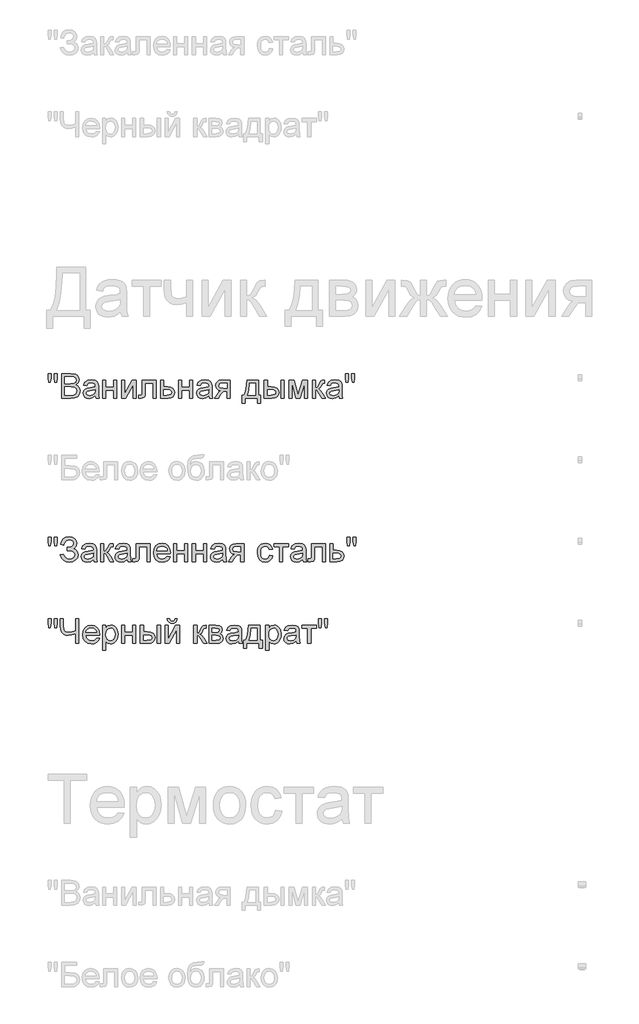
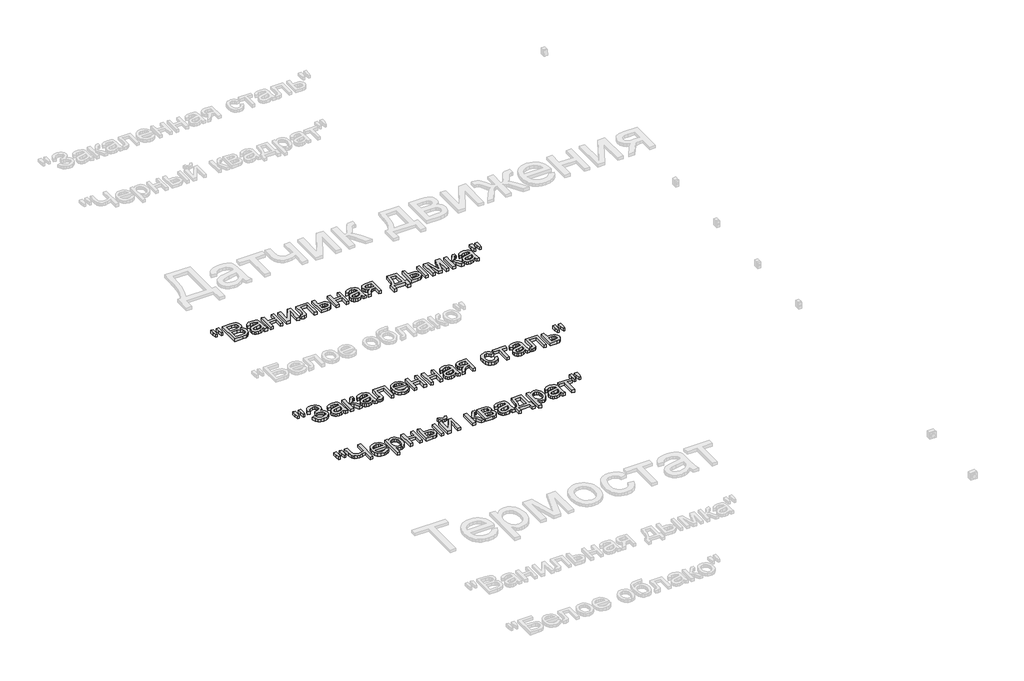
# One storey, part 13 of 168: 3 proxies.
"""IFC4 building model written with IfcOpenShell, lengths in millimetres."""

from ifc_helpers import new_model, si_unit, origin, origin_with_axes, place, context, project, spatial, polyline, outline, extrude, element, save

model = new_model("IFC4")

# Units and contexts
model_context = context("Model", 3, world=origin())
ifc_project = project(units=[si_unit("LENGTHUNIT", "METRE", prefix="MILLI")], contexts=[model_context])

# Site, building, storey
site = spatial("IfcSite", under=ifc_project)
building = spatial("IfcBuilding", under=site)
storey = spatial("IfcBuildingStorey", under=building, Name="Этаж 01", Elevation=0.0)

# Proxies
placement = place(None, origin())
element("IfcBuildingElementProxy", 1, Name="150", ObjectType="150", at=placement, inside=storey, context=model_context, shape_type="SweptSolid", body=[
    extrude(outline(polyline([(32880.1485789, -50469.2611657), (32875.550054, -50440.1616998), (32875.550054, -50415.108936), (32894.3856121, -50415.108936), (32894.3856121, -50440.1616998), (32890.2653338, -50469.2611657), (32880.1485789, -50469.2611657)])), origin_with_axes(), (0.0, 0.0, 1.0), 20.0),
    extrude(outline(polyline([(32917.7093306, -50469.2611657), (32913.2211703, -50440.1616998), (32913.2211703, -50415.108936), (32932.0567284, -50415.108936), (32932.0567284, -50440.1616998), (32927.6421445, -50469.2611657), (32917.7093306, -50469.2611657)])), origin_with_axes(), (0.0, 0.0, 1.0), 20.0),
    extrude(outline(polyline([(32957.9556209, -50565.7934012), (32957.9556209, -50415.108936), (33015.4555767, -50415.108936), (33043.6169435, -50419.541914), (33053.0807078, -50425.16591), (33060.2452096, -50433.1719419), (33066.2600803, -50452.4489585), (33061.2017028, -50470.0521119), (33045.9162059, -50483.3878343), (33056.5893823, -50488.9612465), (33064.4758526, -50497.4409265), (33069.3456905, -50508.2658542), (33070.9689698, -50520.8750096), (33066.5359918, -50541.1269134), (33055.5547142, -50555.5478876), (33039.1655713, -50563.1998331), (33015.0141183, -50565.7934012), (32957.9556209, -50565.7934012)]), holes=[polyline([(32976.791179, -50476.3245), (33011.1881456, -50476.3245), (33031.2745025, -50474.7058192), (33043.3594261, -50467.7344554), (33047.4245221, -50455.4655908), (33043.6353376, -50443.1783322), (33032.7828187, -50435.9126628), (33008.5761834, -50433.9444941), (32976.791179, -50433.9444941), (32976.791179, -50476.3245)]), polyline([(32976.791179, -50546.957843), (33015.4187885, -50546.957843), (33029.3983043, -50546.222079), (33041.2257105, -50542.1201948), (33049.061597, -50533.7508794), (33052.1334117, -50521.0589506), (33048.5281681, -50506.4172472), (33036.8479148, -50497.6800498), (33013.5793786, -50495.1600581), (32976.791179, -50495.1600581), (32976.791179, -50546.957843)])]), origin_with_axes(), (0.0, 0.0, 1.0), 20.0),
    extrude(outline(polyline([(33165.1467606, -50551.6667326), (33146.8814195, -50564.4322378), (33126.7030921, -50568.147846), (33110.9623412, -50565.9129628), (33099.3510657, -50559.2083135), (33092.1911624, -50549.0271793), (33089.804528, -50536.3628416), (33093.4097715, -50521.4636208), (33102.8827329, -50510.6478901), (33116.0713024, -50504.4674726), (33132.3684748, -50501.6347812), (33165.036396, -50495.1600581), (33165.1467606, -50490.9662034), (33163.8499765, -50482.5600998), (33159.9596244, -50477.060264), (33151.2592153, -50472.9767738), (33139.1375035, -50471.6156104), (33120.0812162, -50475.2392481), (33110.9945309, -50488.0967238), (33092.1589727, -50485.742279), (33100.3075589, -50467.3481793), (33116.7150959, -50456.5692368), (33141.5655247, -50452.7800523), (33164.3926025, -50456.1277784), (33177.2868664, -50464.533882), (33183.0626137, -50477.3177814), (33183.9823187, -50493.7988947), (33183.9823187, -50517.2329778), (33184.9388119, -50549.9560813), (33188.6912083, -50565.7934012), (33169.8556501, -50565.7934012), (33165.1467606, -50551.6667326)]), holes=[polyline([(33165.1467606, -50513.9956163), (33134.7597078, -50519.7713636), (33118.5545059, -50522.8247842), (33111.2152601, -50527.7911911), (33108.6400861, -50535.0384664), (33114.2502865, -50545.2287977), (33130.7130058, -50549.3122878), (33149.7692932, -50544.8057334), (33162.0565518, -50533.8980322), (33165.036396, -50519.3299052), (33165.1467606, -50513.9956163)])]), origin_with_axes(), (0.0, 0.0, 1.0), 20.0),
    extrude(outline(polyline([(33209.8812112, -50455.134497), (33228.7167693, -50455.134497), (33228.7167693, -50497.5145029), (33278.1601095, -50497.5145029), (33278.1601095, -50455.134497), (33296.9956676, -50455.134497), (33296.9956676, -50565.7934012), (33278.1601095, -50565.7934012), (33278.1601095, -50516.350061), (33228.7167693, -50516.350061), (33228.7167693, -50565.7934012), (33209.8812112, -50565.7934012), (33209.8812112, -50455.134497)])), origin_with_axes(), (0.0, 0.0, 1.0), 20.0),
    extrude(outline(polyline([(33325.2490049, -50455.134497), (33344.084563, -50455.134497), (33344.084563, -50539.5266267), (33390.364118, -50455.134497), (33414.7179061, -50455.134497), (33414.7179061, -50565.7934012), (33395.8823479, -50565.7934012), (33395.8823479, -50481.9163063), (33349.8970985, -50565.7934012), (33325.2490049, -50565.7934012), (33325.2490049, -50455.134497)])), origin_with_axes(), (0.0, 0.0, 1.0), 20.0),
    extrude(outline(polyline([(33452.3890224, -50455.134497), (33537.1490341, -50455.134497), (33537.1490341, -50565.6830366), (33518.3134759, -50565.6830366), (33518.3134759, -50473.9700552), (33471.2245806, -50473.9700552), (33471.2245806, -50526.7611215), (33469.9553877, -50551.1149096), (33462.9840239, -50561.3972113), (33446.5029105, -50565.7934012), (33431.1990195, -50564.836908), (33431.1990195, -50546.957843), (33439.6235172, -50546.957843), (33448.1399854, -50545.7990148), (33451.5428938, -50542.1201948), (33452.3890224, -50525.6942637), (33452.3890224, -50455.134497)])), origin_with_axes(), (0.0, 0.0, 1.0), 20.0),
    extrude(outline(polyline([(33565.4023713, -50455.134497), (33584.2379295, -50455.134497), (33584.2379295, -50495.1600581), (33605.9429672, -50495.1600581), (33624.7601312, -50497.5191014), (33638.6844648, -50504.5962313), (33647.2929034, -50515.8212307), (33650.162383, -50530.6238825), (33647.7205663, -50544.102159), (33640.395116, -50555.4743112), (33627.6985887, -50563.2136287), (33609.1435405, -50565.7934012), (33565.4023713, -50565.7934012), (33565.4023713, -50455.134497)]), holes=[polyline([(33584.2379295, -50546.957843), (33601.8226888, -50546.957843), (33624.539402, -50543.0031116), (33629.6299692, -50537.9401356), (33631.3268249, -50530.6606707), (33626.3052356, -50519.0723878), (33618.2348244, -50515.2648092), (33604.066769, -50513.9956163), (33584.2379295, -50513.9956163), (33584.2379295, -50546.957843)])]), origin_with_axes(), (0.0, 0.0, 1.0), 20.0),
    extrude(outline(polyline([(33673.7068307, -50455.134497), (33692.5423889, -50455.134497), (33692.5423889, -50497.5145029), (33741.985729, -50497.5145029), (33741.985729, -50455.134497), (33760.8212872, -50455.134497), (33760.8212872, -50565.7934012), (33741.985729, -50565.7934012), (33741.985729, -50516.350061), (33692.5423889, -50516.350061), (33692.5423889, -50565.7934012), (33673.7068307, -50565.7934012), (33673.7068307, -50455.134497)])), origin_with_axes(), (0.0, 0.0, 1.0), 20.0),
    extrude(outline(polyline([(33859.7079675, -50551.6667326), (33841.4426264, -50564.4322378), (33821.264299, -50568.147846), (33805.5235481, -50565.9129628), (33793.9122726, -50559.2083135), (33786.7523693, -50549.0271793), (33784.3657349, -50536.3628416), (33787.9709784, -50521.4636208), (33797.4439398, -50510.6478901), (33810.6325093, -50504.4674726), (33826.9296817, -50501.6347812), (33859.5976029, -50495.1600581), (33859.7079675, -50490.9662034), (33858.4111834, -50482.5600998), (33854.5208313, -50477.060264), (33845.8204221, -50472.9767738), (33833.6987104, -50471.6156104), (33814.6424231, -50475.2392481), (33805.5557378, -50488.0967238), (33786.7201796, -50485.742279), (33794.8687658, -50467.3481793), (33811.2763028, -50456.5692368), (33836.1267316, -50452.7800523), (33858.9538094, -50456.1277784), (33871.8480733, -50464.533882), (33877.6238206, -50477.3177814), (33878.5435256, -50493.7988947), (33878.5435256, -50517.2329778), (33879.5000188, -50549.9560813), (33883.2524152, -50565.7934012), (33864.416857, -50565.7934012), (33859.7079675, -50551.6667326)]), holes=[polyline([(33859.7079675, -50513.9956163), (33829.3209147, -50519.7713636), (33813.1157128, -50522.8247842), (33805.776467, -50527.7911911), (33803.201293, -50535.0384664), (33808.8114934, -50545.2287977), (33825.2742127, -50549.3122878), (33844.3305001, -50544.8057334), (33856.6177587, -50533.8980322), (33859.5976029, -50519.3299052), (33859.7079675, -50513.9956163)])]), origin_with_axes(), (0.0, 0.0, 1.0), 20.0),
    extrude(outline(polyline([(33989.2024298, -50455.134497), (33989.2024298, -50565.7934012), (33970.3668716, -50565.7934012), (33970.3668716, -50523.4133953), (33960.1029639, -50523.4133953), (33946.1234481, -50525.8046283), (33932.9900609, -50541.8810715), (33917.9804755, -50565.7934012), (33896.2018614, -50565.7934012), (33915.1109959, -50535.5535012), (33923.4619172, -50524.7009823), (33931.1506509, -50519.8817282), (33918.2747811, -50515.9361938), (33909.224884, -50508.4405981), (33903.872201, -50498.4709961), (33902.0879733, -50487.1034424), (33904.5251915, -50474.2091785), (33911.8368462, -50464.0004531), (33923.7654199, -50457.3509861), (33940.0533952, -50455.134497), (33989.2024298, -50455.134497)]), holes=[polyline([(33970.3668716, -50473.9700552), (33945.5348369, -50473.9700552), (33932.7095509, -50475.0599056), (33925.4300859, -50478.3294568), (33920.9235315, -50488.5381822), (33922.583599, -50495.7164796), (33927.5638015, -50500.6966821), (33951.0898551, -50504.5778372), (33970.3668716, -50504.5778372), (33970.3668716, -50473.9700552)])]), origin_with_axes(), (0.0, 0.0, 1.0), 20.0),
    extrude(outline(polyline([(34092.7979996, -50455.134497), (34163.4313427, -50455.134497), (34163.4313427, -50546.957843), (34177.5580113, -50546.957843), (34177.5580113, -50596.4011832), (34158.7224531, -50596.4011832), (34158.7224531, -50565.7934012), (34081.0257758, -50565.7934012), (34081.0257758, -50596.4011832), (34062.1902176, -50596.4011832), (34062.1902176, -50546.957843), (34073.9624415, -50546.957843), (34082.5202964, -50531.4930037), (34088.5121744, -50511.0341662), (34092.7979996, -50455.134497)]), holes=[polyline([(34109.279113, -50473.9700552), (34104.864529, -50516.8834899), (34095.1524444, -50546.957843), (34144.5957845, -50546.957843), (34144.5957845, -50473.9700552), (34109.279113, -50473.9700552)])]), origin_with_axes(), (0.0, 0.0, 1.0), 20.0),
    extrude(outline(polyline([(34302.3435841, -50455.134497), (34321.1791422, -50455.134497), (34321.1791422, -50565.7934012), (34302.3435841, -50565.7934012), (34302.3435841, -50455.134497)])), origin_with_axes(), (0.0, 0.0, 1.0), 20.0),
    extrude(outline(polyline([(34198.7480142, -50455.134497), (34217.5835724, -50455.134497), (34217.5835724, -50495.1600581), (34240.8705027, -50495.1600581), (34260.9982463, -50497.5191014), (34275.9112627, -50504.5962313), (34285.1405023, -50515.8212307), (34288.2169154, -50530.6238825), (34285.637143, -50544.102159), (34277.8978255, -50555.4743112), (34264.4931253, -50563.2136287), (34244.9172046, -50565.7934012), (34198.7480142, -50565.7934012), (34198.7480142, -50455.134497)]), holes=[polyline([(34217.5835724, -50546.957843), (34236.9341653, -50546.957843), (34261.9133528, -50543.0031116), (34267.5143562, -50537.9401356), (34269.3813573, -50530.6606707), (34263.8447333, -50519.0723878), (34254.9649816, -50515.2648092), (34239.3989747, -50513.9956163), (34217.5835724, -50513.9956163), (34217.5835724, -50546.957843)])]), origin_with_axes(), (0.0, 0.0, 1.0), 20.0),
    extrude(outline(polyline([(34349.4324794, -50455.134497), (34381.8428832, -50455.134497), (34406.8220707, -50543.7204815), (34433.7510327, -50455.134497), (34464.8002731, -50455.134497), (34464.8002731, -50565.7934012), (34445.964715, -50565.7934012), (34445.964715, -50476.692382), (34418.8886001, -50565.7934012), (34394.1669301, -50565.7934012), (34368.2680376, -50472.4249508), (34368.2680376, -50565.7934012), (34349.4324794, -50565.7934012), (34349.4324794, -50455.134497)])), origin_with_axes(), (0.0, 0.0, 1.0), 20.0),
    extrude(outline(polyline([(34493.0536104, -50455.134497), (34511.8891685, -50455.134497), (34511.8891685, -50502.2233924), (34524.5075209, -50498.8388781), (34534.845005, -50479.1204031), (34543.4350496, -50462.1058608), (34551.0134187, -50456.5692368), (34564.7905994, -50455.134497), (34568.395843, -50455.134497), (34568.395843, -50474.0804198), (34563.3190714, -50473.9700552), (34554.1220216, -50475.956618), (34547.6472984, -50488.3542412), (34540.0505352, -50501.7635399), (34529.4003515, -50508.3302335), (34541.2829399, -50515.6602823), (34552.9447992, -50531.102129), (34573.1047325, -50565.7934012), (34551.6940004, -50565.7934012), (34531.9387372, -50531.837893), (34522.0059234, -50517.4721011), (34511.8891685, -50513.9956163), (34511.8891685, -50565.7934012), (34493.0536104, -50565.7934012), (34493.0536104, -50455.134497)])), origin_with_axes(), (0.0, 0.0, 1.0), 20.0),
    extrude(outline(polyline([(34655.5102994, -50551.6667326), (34637.2449584, -50564.4322378), (34617.0666309, -50568.147846), (34601.3258801, -50565.9129628), (34589.7146046, -50559.2083135), (34582.5547013, -50549.0271793), (34580.1680668, -50536.3628416), (34583.7733104, -50521.4636208), (34593.2462717, -50510.6478901), (34606.4348413, -50504.4674726), (34622.7320137, -50501.6347812), (34655.3999348, -50495.1600581), (34655.5102994, -50490.9662034), (34654.2135154, -50482.5600998), (34650.3231633, -50477.060264), (34641.6227541, -50472.9767738), (34629.5010424, -50471.6156104), (34610.444755, -50475.2392481), (34601.3580697, -50488.0967238), (34582.5225116, -50485.742279), (34590.6710978, -50467.3481793), (34607.0786348, -50456.5692368), (34631.9290635, -50452.7800523), (34654.7561413, -50456.1277784), (34667.6504053, -50464.533882), (34673.4261526, -50477.3177814), (34674.3458576, -50493.7988947), (34674.3458576, -50517.2329778), (34675.3023508, -50549.9560813), (34679.0547471, -50565.7934012), (34660.219189, -50565.7934012), (34655.5102994, -50551.6667326)]), holes=[polyline([(34655.5102994, -50513.9956163), (34625.1232466, -50519.7713636), (34608.9180447, -50522.8247842), (34601.5787989, -50527.7911911), (34599.003625, -50535.0384664), (34604.6138254, -50545.2287977), (34621.0765447, -50549.3122878), (34640.132832, -50544.8057334), (34652.4200907, -50533.8980322), (34655.3999348, -50519.3299052), (34655.5102994, -50513.9956163)])]), origin_with_axes(), (0.0, 0.0, 1.0), 20.0),
    extrude(outline(polyline([(34700.1343854, -50469.2611657), (34695.5358605, -50440.1616998), (34695.5358605, -50415.108936), (34714.3714187, -50415.108936), (34714.3714187, -50440.1616998), (34710.2511403, -50469.2611657), (34700.1343854, -50469.2611657)])), origin_with_axes(), (0.0, 0.0, 1.0), 20.0),
    extrude(outline(polyline([(34737.6951372, -50469.2611657), (34733.2069768, -50440.1616998), (34733.2069768, -50415.108936), (34752.042535, -50415.108936), (34752.042535, -50440.1616998), (34747.627951, -50469.2611657), (34737.6951372, -50469.2611657)])), origin_with_axes(), (0.0, 0.0, 1.0), 20.0),
])
element("IfcBuildingElementProxy", 2, Name="150", ObjectType="150", at=placement, inside=storey, context=model_context, shape_type="SweptSolid", body=[
    extrude(outline(polyline([(32880.1485789, -51469.2611657), (32875.550054, -51440.1616998), (32875.550054, -51415.108936), (32894.3856121, -51415.108936), (32894.3856121, -51440.1616998), (32890.2653338, -51469.2611657), (32880.1485789, -51469.2611657)])), origin_with_axes(), (0.0, 0.0, 1.0), 20.0),
    extrude(outline(polyline([(32917.7093306, -51469.2611657), (32913.2211703, -51440.1616998), (32913.2211703, -51415.108936), (32932.0567284, -51415.108936), (32932.0567284, -51440.1616998), (32927.6421445, -51469.2611657), (32917.7093306, -51469.2611657)])), origin_with_axes(), (0.0, 0.0, 1.0), 20.0),
    extrude(outline(polyline([(32950.8922866, -51523.4133953), (32969.7278447, -51518.7045058), (32981.2977335, -51539.1035624), (32992.2284273, -51546.7601065), (33006.2217387, -51549.3122878), (33020.398991, -51547.3947029), (33031.2193202, -51541.6419482), (33038.0757209, -51533.1760638), (33040.3611878, -51523.1190897), (33037.8641888, -51512.5838691), (33030.3731916, -51504.4490785), (33018.5779752, -51499.2481468), (33003.1683181, -51497.5145029), (32993.2722924, -51497.5145029), (32993.2722924, -51478.6789447), (33014.591054, -51477.1522345), (33027.6324708, -51469.3531362), (33033.2978535, -51455.0977088), (33031.4124583, -51446.2271542), (33025.7562726, -51438.5982014), (33016.8811195, -51433.3420874), (33005.3388219, -51431.5900493), (32986.1169876, -51436.9795206), (32975.117316, -51451.2717361), (32972.0822895, -51464.5522761), (32953.2467313, -51459.8433866), (32959.0983543, -51439.2419948), (32969.7002536, -51424.526715), (32985.0524291, -51415.6975472), (33005.1548809, -51412.7544912), (33024.5468605, -51415.8125103), (33039.4598769, -51424.9865675), (33048.965028, -51438.253312), (33052.1334117, -51453.5893927), (33047.2037929, -51472.2318128), (33032.4149367, -51486.1469492), (33042.8903765, -51490.9708019), (33051.5080123, -51499.1147896), (33057.2745625, -51509.8799364), (33059.196746, -51522.5672668), (33055.508729, -51540.404945), (33044.444678, -51555.069641), (33027.2921799, -51564.8782947), (33005.3388219, -51568.147846), (32986.2365493, -51565.3519428), (32970.7947025, -51556.9642333), (32959.0132816, -51542.9847175), (32950.8922866, -51523.4133953)])), origin_with_axes(), (0.0, 0.0, 1.0), 20.0),
    extrude(outline(polyline([(33153.3745367, -51551.6667326), (33135.1091957, -51564.4322378), (33114.9308682, -51568.147846), (33099.1901174, -51565.9129628), (33087.5788419, -51559.2083135), (33080.4189386, -51549.0271793), (33078.0323041, -51536.3628416), (33081.6375477, -51521.4636208), (33091.110509, -51510.6478901), (33104.2990786, -51504.4674726), (33120.596251, -51501.6347812), (33153.2641721, -51495.1600581), (33153.3745367, -51490.9662034), (33152.0777527, -51482.5600998), (33148.1874006, -51477.060264), (33139.4869914, -51472.9767738), (33127.3652797, -51471.6156104), (33108.3089923, -51475.2392481), (33099.222307, -51488.0967238), (33080.3867489, -51485.742279), (33088.5353351, -51467.3481793), (33104.9428721, -51456.5692368), (33129.7933008, -51452.7800523), (33152.6203786, -51456.1277784), (33165.5146426, -51464.533882), (33171.2903899, -51477.3177814), (33172.2100949, -51493.7988947), (33172.2100949, -51517.2329778), (33173.1665881, -51549.9560813), (33176.9189844, -51565.7934012), (33158.0834263, -51565.7934012), (33153.3745367, -51551.6667326)]), holes=[polyline([(33153.3745367, -51513.9956163), (33122.9874839, -51519.7713636), (33106.782282, -51522.8247842), (33099.4430362, -51527.7911911), (33096.8678623, -51535.0384664), (33102.4780627, -51545.2287977), (33118.940782, -51549.3122878), (33137.9970693, -51544.8057334), (33150.284328, -51533.8980322), (33153.2641721, -51519.3299052), (33153.3745367, -51513.9956163)])]), origin_with_axes(), (0.0, 0.0, 1.0), 20.0),
    extrude(outline(polyline([(33198.1089873, -51455.134497), (33216.9445455, -51455.134497), (33216.9445455, -51502.2233924), (33229.5628979, -51498.8388781), (33239.900382, -51479.1204031), (33248.4904266, -51462.1058608), (33256.0687957, -51456.5692368), (33269.8459764, -51455.134497), (33273.4512199, -51455.134497), (33273.4512199, -51474.0804198), (33268.3744484, -51473.9700552), (33259.1773985, -51475.956618), (33252.7026754, -51488.3542412), (33245.1059122, -51501.7635399), (33234.4557285, -51508.3302335), (33246.3383169, -51515.6602823), (33258.0001762, -51531.102129), (33278.1601095, -51565.7934012), (33256.7493774, -51565.7934012), (33236.9941142, -51531.837893), (33227.0613004, -51517.4721011), (33216.9445455, -51513.9956163), (33216.9445455, -51565.7934012), (33198.1089873, -51565.7934012), (33198.1089873, -51455.134497)])), origin_with_axes(), (0.0, 0.0, 1.0), 20.0),
    extrude(outline(polyline([(33360.5656764, -51551.6667326), (33342.3003353, -51564.4322378), (33322.1220079, -51568.147846), (33306.381257, -51565.9129628), (33294.7699816, -51559.2083135), (33287.6100782, -51549.0271793), (33285.2234438, -51536.3628416), (33288.8286873, -51521.4636208), (33298.3016487, -51510.6478901), (33311.4902183, -51504.4674726), (33327.7873906, -51501.6347812), (33360.4553118, -51495.1600581), (33360.5656764, -51490.9662034), (33359.2688924, -51482.5600998), (33355.3785403, -51477.060264), (33346.6781311, -51472.9767738), (33334.5564193, -51471.6156104), (33315.500132, -51475.2392481), (33306.4134467, -51488.0967238), (33287.5778886, -51485.742279), (33295.7264748, -51467.3481793), (33312.1340117, -51456.5692368), (33336.9844405, -51452.7800523), (33359.8115183, -51456.1277784), (33372.7057822, -51464.533882), (33378.4815296, -51477.3177814), (33379.4012346, -51493.7988947), (33379.4012346, -51517.2329778), (33380.3577277, -51549.9560813), (33384.1101241, -51565.7934012), (33365.2745659, -51565.7934012), (33360.5656764, -51551.6667326)]), holes=[polyline([(33360.5656764, -51513.9956163), (33330.1786236, -51519.7713636), (33313.9734217, -51522.8247842), (33306.6341759, -51527.7911911), (33304.0590019, -51535.0384664), (33309.6692024, -51545.2287977), (33326.1319217, -51549.3122878), (33345.188209, -51544.8057334), (33357.4754676, -51533.8980322), (33360.4553118, -51519.3299052), (33360.5656764, -51513.9956163)])]), origin_with_axes(), (0.0, 0.0, 1.0), 20.0),
    extrude(outline(polyline([(33414.7179061, -51455.134497), (33499.4779178, -51455.134497), (33499.4779178, -51565.6830366), (33480.6423596, -51565.6830366), (33480.6423596, -51473.9700552), (33433.5534643, -51473.9700552), (33433.5534643, -51526.7611215), (33432.2842714, -51551.1149096), (33425.3129076, -51561.3972113), (33408.8317942, -51565.7934012), (33393.5279032, -51564.836908), (33393.5279032, -51546.957843), (33401.9524009, -51546.957843), (33410.4688691, -51545.7990148), (33413.8717775, -51542.1201948), (33414.7179061, -51525.6942637), (33414.7179061, -51455.134497)])), origin_with_axes(), (0.0, 0.0, 1.0), 20.0),
    extrude(outline(polyline([(33605.2072032, -51532.8311744), (33623.6748794, -51535.1856192), (33617.0208138, -51549.1007557), (33606.4028197, -51559.5026191), (33592.0600204, -51565.9865392), (33574.2315392, -51568.147846), (33552.1310283, -51564.4184422), (33535.1256831, -51553.2302311), (33524.2823613, -51535.3097794), (33520.6679207, -51511.3836541), (33524.3191495, -51486.652787), (33535.2728359, -51468.1575197), (33552.0482549, -51456.6244191), (33573.1646814, -51452.7800523), (33593.6235189, -51456.6152221), (33609.971275, -51468.1207315), (33620.6904367, -51486.5792106), (33624.2634906, -51511.2732895), (33624.153126, -51516.350061), (33539.5034789, -51516.350061), (33542.763833, -51530.4491385), (33550.3376036, -51540.8142137), (33561.2682974, -51547.1877693), (33574.5994212, -51549.3122878), (33593.0670974, -51545.3759505), (33605.2072032, -51532.8311744)]), holes=[polyline([(33539.5034789, -51497.5145029), (33605.4279324, -51497.5145029), (33602.8803496, -51487.5632949), (33597.8863515, -51480.4447783), (33586.9050739, -51473.8229024), (33573.091105, -51471.6156104), (33560.3945777, -51473.3768455), (33549.8961452, -51478.6605506), (33542.5982861, -51486.8965088), (33539.5034789, -51497.5145029)])]), origin_with_axes(), (0.0, 0.0, 1.0), 20.0),
    extrude(outline(polyline([(33643.0990487, -51455.134497), (33661.9346069, -51455.134497), (33661.9346069, -51497.5145029), (33711.377947, -51497.5145029), (33711.377947, -51455.134497), (33730.2135052, -51455.134497), (33730.2135052, -51565.7934012), (33711.377947, -51565.7934012), (33711.377947, -51516.350061), (33661.9346069, -51516.350061), (33661.9346069, -51565.7934012), (33643.0990487, -51565.7934012), (33643.0990487, -51455.134497)])), origin_with_axes(), (0.0, 0.0, 1.0), 20.0),
    extrude(outline(polyline([(33758.4668424, -51455.134497), (33777.3024005, -51455.134497), (33777.3024005, -51497.5145029), (33826.7457407, -51497.5145029), (33826.7457407, -51455.134497), (33845.5812988, -51455.134497), (33845.5812988, -51565.7934012), (33826.7457407, -51565.7934012), (33826.7457407, -51516.350061), (33777.3024005, -51516.350061), (33777.3024005, -51565.7934012), (33758.4668424, -51565.7934012), (33758.4668424, -51455.134497)])), origin_with_axes(), (0.0, 0.0, 1.0), 20.0),
    extrude(outline(polyline([(33944.4679792, -51551.6667326), (33926.2026381, -51564.4322378), (33906.0243107, -51568.147846), (33890.2835598, -51565.9129628), (33878.6722843, -51559.2083135), (33871.512381, -51549.0271793), (33869.1257465, -51536.3628416), (33872.7309901, -51521.4636208), (33882.2039515, -51510.6478901), (33895.392521, -51504.4674726), (33911.6896934, -51501.6347812), (33944.3576146, -51495.1600581), (33944.4679792, -51490.9662034), (33943.1711951, -51482.5600998), (33939.280843, -51477.060264), (33930.5804338, -51472.9767738), (33918.4587221, -51471.6156104), (33899.4024347, -51475.2392481), (33890.3157495, -51488.0967238), (33871.4801913, -51485.742279), (33879.6287775, -51467.3481793), (33896.0363145, -51456.5692368), (33920.8867433, -51452.7800523), (33943.7138211, -51456.1277784), (33956.608085, -51464.533882), (33962.3838323, -51477.3177814), (33963.3035373, -51493.7988947), (33963.3035373, -51517.2329778), (33964.2600305, -51549.9560813), (33968.0124268, -51565.7934012), (33949.1768687, -51565.7934012), (33944.4679792, -51551.6667326)]), holes=[polyline([(33944.4679792, -51513.9956163), (33914.0809264, -51519.7713636), (33897.8757245, -51522.8247842), (33890.5364787, -51527.7911911), (33887.9613047, -51535.0384664), (33893.5715051, -51545.2287977), (33910.0342244, -51549.3122878), (33929.0905118, -51544.8057334), (33941.3777704, -51533.8980322), (33944.3576146, -51519.3299052), (33944.4679792, -51513.9956163)])]), origin_with_axes(), (0.0, 0.0, 1.0), 20.0),
    extrude(outline(polyline([(34073.9624415, -51455.134497), (34073.9624415, -51565.7934012), (34055.1268833, -51565.7934012), (34055.1268833, -51523.4133953), (34044.8629756, -51523.4133953), (34030.8834598, -51525.8046283), (34017.7500726, -51541.8810715), (34002.7404872, -51565.7934012), (33980.9618731, -51565.7934012), (33999.8710076, -51535.5535012), (34008.2219289, -51524.7009823), (34015.9106626, -51519.8817282), (34003.0347928, -51515.9361938), (33993.9848957, -51508.4405981), (33988.6322127, -51498.4709961), (33986.847985, -51487.1034424), (33989.2852032, -51474.2091785), (33996.5968579, -51464.0004531), (34008.5254316, -51457.3509861), (34024.8134069, -51455.134497), (34073.9624415, -51455.134497)]), holes=[polyline([(34055.1268833, -51473.9700552), (34030.2948486, -51473.9700552), (34017.4695626, -51475.0599056), (34010.1900976, -51478.3294568), (34005.6835431, -51488.5381822), (34007.3436107, -51495.7164796), (34012.3238132, -51500.6966821), (34035.8498668, -51504.5778372), (34055.1268833, -51504.5778372), (34055.1268833, -51473.9700552)])]), origin_with_axes(), (0.0, 0.0, 1.0), 20.0),
    extrude(outline(polyline([(34231.710241, -51525.7678401), (34250.5457991, -51528.1222849), (34245.2942837, -51544.8747112), (34235.4258491, -51557.5344504), (34221.8693976, -51565.4944971), (34205.5538311, -51568.147846), (34185.518058, -51564.4460334), (34169.8508835, -51553.3405957), (34159.7387272, -51535.3189764), (34156.3680084, -51510.8686193), (34157.8073467, -51494.1069959), (34162.1253616, -51479.5802556), (34169.391031, -51467.8494185), (34179.6733328, -51459.4755046), (34191.974387, -51454.4539153), (34205.2963137, -51452.7800523), (34221.2118085, -51455.0793147), (34233.9359271, -51461.9771022), (34243.0639991, -51473.1055325), (34248.1913544, -51488.0967238), (34229.3557962, -51490.4511686), (34220.6185988, -51476.3428941), (34205.4434665, -51471.6156104), (34193.271171, -51473.942464), (34183.6096701, -51480.9230249), (34177.3050924, -51492.934372), (34175.2035665, -51510.3535845), (34177.2591072, -51528.0073218), (34183.4257291, -51540.0600556), (34192.9124861, -51546.9992298), (34204.9284317, -51549.3122878), (34214.6819031, -51547.868351), (34222.678738, -51543.5365405), (34228.4958721, -51536.2064917), (34231.710241, -51525.7678401)])), origin_with_axes(), (0.0, 0.0, 1.0), 20.0),
    extrude(outline(polyline([(34257.6091334, -51455.134497), (34347.0780347, -51455.134497), (34347.0780347, -51473.9700552), (34311.7613631, -51473.9700552), (34311.7613631, -51565.7934012), (34292.925805, -51565.7934012), (34292.925805, -51473.9700552), (34257.6091334, -51473.9700552), (34257.6091334, -51455.134497)])), origin_with_axes(), (0.0, 0.0, 1.0), 20.0),
    extrude(outline(polyline([(34434.1924911, -51551.6667326), (34415.9271501, -51564.4322378), (34395.7488226, -51568.147846), (34380.0080718, -51565.9129628), (34368.3967963, -51559.2083135), (34361.236893, -51549.0271793), (34358.8502585, -51536.3628416), (34362.4555021, -51521.4636208), (34371.9284634, -51510.6478901), (34385.117033, -51504.4674726), (34401.4142054, -51501.6347812), (34434.0821265, -51495.1600581), (34434.1924911, -51490.9662034), (34432.8957071, -51482.5600998), (34429.005355, -51477.060264), (34420.3049458, -51472.9767738), (34408.1832341, -51471.6156104), (34389.1269467, -51475.2392481), (34380.0402614, -51488.0967238), (34361.2047033, -51485.742279), (34369.3532895, -51467.3481793), (34385.7608265, -51456.5692368), (34410.6112552, -51452.7800523), (34433.438333, -51456.1277784), (34446.332597, -51464.533882), (34452.1083443, -51477.3177814), (34453.0280493, -51493.7988947), (34453.0280493, -51517.2329778), (34453.9845425, -51549.9560813), (34457.7369388, -51565.7934012), (34438.9013807, -51565.7934012), (34434.1924911, -51551.6667326)]), holes=[polyline([(34434.1924911, -51513.9956163), (34403.8054383, -51519.7713636), (34387.6002364, -51522.8247842), (34380.2609906, -51527.7911911), (34377.6858167, -51535.0384664), (34383.2960171, -51545.2287977), (34399.7587364, -51549.3122878), (34418.8150237, -51544.8057334), (34431.1022824, -51533.8980322), (34434.0821265, -51519.3299052), (34434.1924911, -51513.9956163)])]), origin_with_axes(), (0.0, 0.0, 1.0), 20.0),
    extrude(outline(polyline([(34488.3447208, -51455.134497), (34573.1047325, -51455.134497), (34573.1047325, -51565.6830366), (34554.2691744, -51565.6830366), (34554.2691744, -51473.9700552), (34507.180279, -51473.9700552), (34507.180279, -51526.7611215), (34505.9110861, -51551.1149096), (34498.9397223, -51561.3972113), (34482.4586089, -51565.7934012), (34467.1547179, -51564.836908), (34467.1547179, -51546.957843), (34475.5792156, -51546.957843), (34484.0956838, -51545.7990148), (34487.4985922, -51542.1201948), (34488.3447208, -51525.6942637), (34488.3447208, -51455.134497)])), origin_with_axes(), (0.0, 0.0, 1.0), 20.0),
    extrude(outline(polyline([(34601.3580697, -51455.134497), (34620.1936279, -51455.134497), (34620.1936279, -51495.1600581), (34641.8986656, -51495.1600581), (34660.7158297, -51497.5191014), (34674.6401632, -51504.5962313), (34683.2486019, -51515.8212307), (34686.1180814, -51530.6238825), (34683.6762647, -51544.102159), (34676.3508145, -51555.4743112), (34663.6542871, -51563.2136287), (34645.099239, -51565.7934012), (34601.3580697, -51565.7934012), (34601.3580697, -51455.134497)]), holes=[polyline([(34620.1936279, -51546.957843), (34637.7783873, -51546.957843), (34660.4951005, -51543.0031116), (34665.5856676, -51537.9401356), (34667.2825233, -51530.6606707), (34662.260934, -51519.0723878), (34654.1905228, -51515.2648092), (34640.0224674, -51513.9956163), (34620.1936279, -51513.9956163), (34620.1936279, -51546.957843)])]), origin_with_axes(), (0.0, 0.0, 1.0), 20.0),
    extrude(outline(polyline([(34709.5521645, -51469.2611657), (34704.9536396, -51440.1616998), (34704.9536396, -51415.108936), (34723.7891977, -51415.108936), (34723.7891977, -51440.1616998), (34719.6689194, -51469.2611657), (34709.5521645, -51469.2611657)])), origin_with_axes(), (0.0, 0.0, 1.0), 20.0),
    extrude(outline(polyline([(34747.1129162, -51469.2611657), (34742.6247559, -51440.1616998), (34742.6247559, -51415.108936), (34761.460314, -51415.108936), (34761.460314, -51440.1616998), (34757.0457301, -51469.2611657), (34747.1129162, -51469.2611657)])), origin_with_axes(), (0.0, 0.0, 1.0), 20.0),
])
element("IfcBuildingElementProxy", 3, Name="150", ObjectType="150", at=placement, inside=storey, context=model_context, shape_type="SweptSolid", body=[
    extrude(outline(polyline([(32880.1485789, -51969.2611657), (32875.550054, -51940.1616998), (32875.550054, -51915.108936), (32894.3856121, -51915.108936), (32894.3856121, -51940.1616998), (32890.2653338, -51969.2611657), (32880.1485789, -51969.2611657)])), origin_with_axes(), (0.0, 0.0, 1.0), 20.0),
    extrude(outline(polyline([(32917.7093306, -51969.2611657), (32913.2211703, -51940.1616998), (32913.2211703, -51915.108936), (32932.0567284, -51915.108936), (32932.0567284, -51940.1616998), (32927.6421445, -51969.2611657), (32917.7093306, -51969.2611657)])), origin_with_axes(), (0.0, 0.0, 1.0), 20.0),
    extrude(outline(polyline([(33063.9056355, -52065.7934012), (33045.0700773, -52065.7934012), (33045.0700773, -52005.460754), (33020.0908899, -52013.6277343), (32998.4226404, -52016.350061), (32983.7395502, -52014.4876584), (32970.886673, -52008.9004506), (32960.926268, -52000.4483618), (32954.9205944, -51989.9913161), (32950.8922866, -51959.9905394), (32950.8922866, -51915.108936), (32969.7278447, -51915.108936), (32969.7278447, -51957.4521536), (32971.990319, -51977.8190206), (32978.7777418, -51989.7705869), (32988.7381468, -51995.5785239), (33000.5195677, -51997.5145029), (33022.2521966, -51995.1784522), (33045.0700773, -51988.1703002), (33045.0700773, -51915.108936), (33063.9056355, -51915.108936), (33063.9056355, -52065.7934012)])), origin_with_axes(), (0.0, 0.0, 1.0), 20.0),
    extrude(outline(polyline([(33171.9893657, -52032.8311744), (33190.4570418, -52035.1856192), (33183.8029763, -52049.1007557), (33173.1849822, -52059.5026191), (33158.8421829, -52065.9865392), (33141.0137017, -52068.147846), (33118.9131908, -52064.4184422), (33101.9078456, -52053.2302311), (33091.0645238, -52035.3097794), (33087.4500832, -52011.3836541), (33091.101312, -51986.652787), (33102.0549984, -51968.1575197), (33118.8304174, -51956.6244191), (33139.9468439, -51952.7800523), (33160.4056814, -51956.6152221), (33176.7534375, -51968.1207315), (33187.4725992, -51986.5792106), (33191.045653, -52011.2732895), (33190.9352884, -52016.350061), (33106.2856413, -52016.350061), (33109.5459955, -52030.4491385), (33117.1197661, -52040.8142137), (33128.0504599, -52047.1877693), (33141.3815837, -52049.3122878), (33159.8492598, -52045.3759505), (33171.9893657, -52032.8311744)]), holes=[polyline([(33106.2856413, -51997.5145029), (33172.2100949, -51997.5145029), (33169.6625121, -51987.5632949), (33164.668514, -51980.4447783), (33153.6872364, -51973.8229024), (33139.8732675, -51971.6156104), (33127.1767401, -51973.3768455), (33116.6783077, -51978.6605506), (33109.3804486, -51986.8965088), (33106.2856413, -51997.5145029)])]), origin_with_axes(), (0.0, 0.0, 1.0), 20.0),
    extrude(outline(polyline([(33209.8812112, -52108.173407), (33209.8812112, -51955.134497), (33228.7167693, -51955.134497), (33228.7167693, -51973.6021732), (33241.739792, -51957.9855825), (33259.3245513, -51952.7800523), (33272.0624654, -51954.6010681), (33283.2000928, -51960.0641158), (33292.268384, -51968.8381014), (33298.7982894, -51980.5919311), (33304.0590019, -52009.6178205), (33302.5736784, -52025.7264534), (33298.1177077, -52040.133632), (33290.8336442, -52052.108191), (33280.8640422, -52060.9189648), (33269.2527667, -52066.3406257), (33257.043683, -52068.147846), (33240.6545401, -52063.3101977), (33228.7167693, -52051.0781214), (33228.7167693, -52108.173407), (33209.8812112, -52108.173407)]), holes=[polyline([(33228.7167693, -52011.3468659), (33230.7539159, -52028.2326495), (33236.8653555, -52040.0416615), (33245.8830629, -52046.9946312), (33256.6390128, -52049.3122878), (33267.5697066, -52046.9118578), (33276.8173402, -52039.7105677), (33283.1219179, -52027.4692943), (33285.2234438, -52009.9489143), (33283.1725017, -51993.1551012), (33277.0196753, -51981.1805423), (33268.0157635, -51974.0068434), (33257.411565, -51971.6156104), (33246.7659797, -51974.1585947), (33237.4171785, -51981.7875476), (33230.8918716, -51994.2633458), (33228.7167693, -52011.3468659)])]), origin_with_axes(), (0.0, 0.0, 1.0), 20.0),
    extrude(outline(polyline([(33325.2490049, -51955.134497), (33344.084563, -51955.134497), (33344.084563, -51997.5145029), (33393.5279032, -51997.5145029), (33393.5279032, -51955.134497), (33412.3634613, -51955.134497), (33412.3634613, -52065.7934012), (33393.5279032, -52065.7934012), (33393.5279032, -52016.350061), (33344.084563, -52016.350061), (33344.084563, -52065.7934012), (33325.2490049, -52065.7934012), (33325.2490049, -51955.134497)])), origin_with_axes(), (0.0, 0.0, 1.0), 20.0),
    extrude(outline(polyline([(33544.2123684, -51955.134497), (33563.0479266, -51955.134497), (33563.0479266, -52065.7934012), (33544.2123684, -52065.7934012), (33544.2123684, -51955.134497)])), origin_with_axes(), (0.0, 0.0, 1.0), 20.0),
    extrude(outline(polyline([(33440.6167986, -51955.134497), (33459.4523567, -51955.134497), (33459.4523567, -51995.1600581), (33482.739287, -51995.1600581), (33502.8670307, -51997.5191014), (33517.780047, -52004.5962313), (33527.0092866, -52015.8212307), (33530.0856998, -52030.6238825), (33527.5059273, -52044.102159), (33519.7666098, -52055.4743112), (33506.3619096, -52063.2136287), (33486.785989, -52065.7934012), (33440.6167986, -52065.7934012), (33440.6167986, -51955.134497)]), holes=[polyline([(33459.4523567, -52046.957843), (33478.8029497, -52046.957843), (33503.7821371, -52043.0031116), (33509.3831405, -52037.9401356), (33511.2501416, -52030.6606707), (33505.7135176, -52019.0723878), (33496.8337659, -52015.2648092), (33481.267759, -52013.9956163), (33459.4523567, -52013.9956163), (33459.4523567, -52046.957843)])]), origin_with_axes(), (0.0, 0.0, 1.0), 20.0),
    extrude(outline(polyline([(33591.3012638, -51955.134497), (33610.1368219, -51955.134497), (33610.1368219, -52039.5266267), (33656.4163769, -51955.134497), (33680.770165, -51955.134497), (33680.770165, -52065.7934012), (33661.9346069, -52065.7934012), (33661.9346069, -51981.9163063), (33615.9493575, -52065.7934012), (33591.3012638, -52065.7934012), (33591.3012638, -51955.134497)])), origin_with_axes(), (0.0, 0.0, 1.0), 20.0),
    extrude(outline(polyline([(33652.5168278, -51915.108936), (33666.6434964, -51915.108936), (33663.6038714, -51927.1708669), (33657.5016288, -51936.0598156), (33648.6126801, -51941.5366588), (33637.2129368, -51943.3622732), (33624.8429047, -51941.5504544), (33615.2503817, -51936.1149979), (33608.6928851, -51927.2398448), (33605.4279324, -51915.108936), (33619.554601, -51915.108936), (33624.8521017, -51925.7223315), (33635.5206796, -51929.2356046), (33647.219327, -51925.8326961), (33652.5168278, -51915.108936)])), origin_with_axes(), (0.0, 0.0, 1.0), 20.0),
    extrude(outline(polyline([(33767.8846215, -51955.134497), (33786.7201796, -51955.134497), (33786.7201796, -52002.2233924), (33799.3385321, -51998.8388781), (33809.6760161, -51979.1204031), (33818.2660607, -51962.1058608), (33825.8444298, -51956.5692368), (33839.6216105, -51955.134497), (33843.2268541, -51955.134497), (33843.2268541, -51974.0804198), (33838.1500825, -51973.9700552), (33828.9530327, -51975.956618), (33822.4783096, -51988.3542412), (33814.8815464, -52001.7635399), (33804.2313626, -52008.3302335), (33816.113951, -52015.6602823), (33827.7758103, -52031.102129), (33847.9357436, -52065.7934012), (33826.5250115, -52065.7934012), (33806.7697484, -52031.837893), (33796.8369345, -52017.4721011), (33786.7201796, -52013.9956163), (33786.7201796, -52065.7934012), (33767.8846215, -52065.7934012), (33767.8846215, -51955.134497)])), origin_with_axes(), (0.0, 0.0, 1.0), 20.0),
    extrude(outline(polyline([(33859.7079675, -51955.134497), (33901.2050565, -51955.134497), (33923.9585579, -51957.6544887), (33936.7608514, -51966.8883268), (33942.1135344, -51982.9831641), (33938.8761728, -51996.061369), (33929.1273, -52005.3871776), (33941.7824406, -52015.5959029), (33946.8224239, -52033.3462092), (33943.6310476, -52047.7028041), (33936.0434815, -52057.8103619), (33924.0321343, -52063.7976414), (33907.569415, -52065.7934012), (33859.7079675, -52065.7934012), (33859.7079675, -51955.134497)]), holes=[polyline([(33878.5435256, -51997.5145029), (33897.1583546, -51997.5145029), (33912.5174279, -51996.5580097), (33919.9854324, -51992.7320369), (33923.2779762, -51985.8158554), (33921.8340394, -51980.196458), (33917.5022289, -51976.5820174), (33897.7469658, -51973.9700552), (33878.5435256, -51973.9700552), (33878.5435256, -51997.5145029)]), polyline([(33878.5435256, -52046.957843), (33901.6465149, -52046.957843), (33922.137542, -52043.5549346), (33926.377382, -52038.9150229), (33927.9868658, -52031.8011048), (33924.7678983, -52022.7328137), (33916.3801888, -52017.453707), (33899.8071049, -52016.350061), (33878.5435256, -52016.350061), (33878.5435256, -52046.957843)])]), origin_with_axes(), (0.0, 0.0, 1.0), 20.0),
    extrude(outline(polyline([(34041.0002147, -52051.6667326), (34022.7348736, -52064.4322378), (34002.5565462, -52068.147846), (33986.8157953, -52065.9129628), (33975.2045198, -52059.2083135), (33968.0446165, -52049.0271793), (33965.6579821, -52036.3628416), (33969.2632256, -52021.4636208), (33978.736187, -52010.6478901), (33991.9247565, -52004.4674726), (34008.2219289, -52001.6347812), (34040.8898501, -51995.1600581), (34041.0002147, -51990.9662034), (34039.7034307, -51982.5600998), (34035.8130786, -51977.060264), (34027.1126694, -51972.9767738), (34014.9909576, -51971.6156104), (33995.9346703, -51975.2392481), (33986.847985, -51988.0967238), (33968.0124268, -51985.742279), (33976.161013, -51967.3481793), (33992.56855, -51956.5692368), (34017.4189788, -51952.7800523), (34040.2460566, -51956.1277784), (34053.1403205, -51964.533882), (34058.9160679, -51977.3177814), (34059.8357728, -51993.7988947), (34059.8357728, -52017.2329778), (34060.792266, -52049.9560813), (34064.5446624, -52065.7934012), (34045.7091042, -52065.7934012), (34041.0002147, -52051.6667326)]), holes=[polyline([(34041.0002147, -52013.9956163), (34010.6131619, -52019.7713636), (33994.40796, -52022.8247842), (33987.0687142, -52027.7911911), (33984.4935402, -52035.0384664), (33990.1037407, -52045.2287977), (34006.5664599, -52049.3122878), (34025.6227473, -52044.8057334), (34037.9100059, -52033.8980322), (34040.8898501, -52019.3299052), (34041.0002147, -52013.9956163)])]), origin_with_axes(), (0.0, 0.0, 1.0), 20.0),
    extrude(outline(polyline([(34102.2157787, -51955.134497), (34172.8491218, -51955.134497), (34172.8491218, -52046.957843), (34186.9757904, -52046.957843), (34186.9757904, -52096.4011832), (34168.1402322, -52096.4011832), (34168.1402322, -52065.7934012), (34090.4435548, -52065.7934012), (34090.4435548, -52096.4011832), (34071.6079967, -52096.4011832), (34071.6079967, -52046.957843), (34083.3802205, -52046.957843), (34091.9380754, -52031.4930037), (34097.9299534, -52011.0341662), (34102.2157787, -51955.134497)]), holes=[polyline([(34118.6968921, -51973.9700552), (34114.2823081, -52016.8834899), (34104.5702235, -52046.957843), (34154.0135636, -52046.957843), (34154.0135636, -51973.9700552), (34118.6968921, -51973.9700552)])]), origin_with_axes(), (0.0, 0.0, 1.0), 20.0),
    extrude(outline(polyline([(34208.1657933, -52108.173407), (34208.1657933, -51955.134497), (34227.0013514, -51955.134497), (34227.0013514, -51973.6021732), (34240.0243741, -51957.9855825), (34257.6091334, -51952.7800523), (34270.3470475, -51954.6010681), (34281.4846749, -51960.0641158), (34290.5529661, -51968.8381014), (34297.0828715, -51980.5919311), (34302.3435841, -52009.6178205), (34300.8582605, -52025.7264534), (34296.4022898, -52040.133632), (34289.1182263, -52052.108191), (34279.1486243, -52060.9189648), (34267.5373488, -52066.3406257), (34255.3282651, -52068.147846), (34238.9391222, -52063.3101977), (34227.0013514, -52051.0781214), (34227.0013514, -52108.173407), (34208.1657933, -52108.173407)]), holes=[polyline([(34227.0013514, -52011.3468659), (34229.038498, -52028.2326495), (34235.1499376, -52040.0416615), (34244.167645, -52046.9946312), (34254.9235949, -52049.3122878), (34265.8542887, -52046.9118578), (34275.1019223, -52039.7105677), (34281.4065, -52027.4692943), (34283.5080259, -52009.9489143), (34281.4570838, -51993.1551012), (34275.3042574, -51981.1805423), (34266.3003456, -51974.0068434), (34255.6961471, -51971.6156104), (34245.0505618, -51974.1585947), (34235.7017606, -51981.7875476), (34229.1764537, -51994.2633458), (34227.0013514, -52011.3468659)])]), origin_with_axes(), (0.0, 0.0, 1.0), 20.0),
    extrude(outline(polyline([(34394.1669301, -52051.6667326), (34375.901589, -52064.4322378), (34355.7232616, -52068.147846), (34339.9825107, -52065.9129628), (34328.3712352, -52059.2083135), (34321.2113319, -52049.0271793), (34318.8246974, -52036.3628416), (34322.429941, -52021.4636208), (34331.9029024, -52010.6478901), (34345.0914719, -52004.4674726), (34361.3886443, -52001.6347812), (34394.0565655, -51995.1600581), (34394.1669301, -51990.9662034), (34392.870146, -51982.5600998), (34388.9797939, -51977.060264), (34380.2793847, -51972.9767738), (34368.157673, -51971.6156104), (34349.1013856, -51975.2392481), (34340.0147004, -51988.0967238), (34321.1791422, -51985.742279), (34329.3277284, -51967.3481793), (34345.7352654, -51956.5692368), (34370.5856942, -51952.7800523), (34393.412772, -51956.1277784), (34406.3070359, -51964.533882), (34412.0827832, -51977.3177814), (34413.0024882, -51993.7988947), (34413.0024882, -52017.2329778), (34413.9589814, -52049.9560813), (34417.7113777, -52065.7934012), (34398.8758196, -52065.7934012), (34394.1669301, -52051.6667326)]), holes=[polyline([(34394.1669301, -52013.9956163), (34363.7798773, -52019.7713636), (34347.5746754, -52022.8247842), (34340.2354296, -52027.7911911), (34337.6602556, -52035.0384664), (34343.270456, -52045.2287977), (34359.7331753, -52049.3122878), (34378.7894627, -52044.8057334), (34391.0767213, -52033.8980322), (34394.0565655, -52019.3299052), (34394.1669301, -52013.9956163)])]), origin_with_axes(), (0.0, 0.0, 1.0), 20.0),
    extrude(outline(polyline([(34429.4836016, -51955.134497), (34518.9525028, -51955.134497), (34518.9525028, -51973.9700552), (34483.6358313, -51973.9700552), (34483.6358313, -52065.7934012), (34464.8002731, -52065.7934012), (34464.8002731, -51973.9700552), (34429.4836016, -51973.9700552), (34429.4836016, -51955.134497)])), origin_with_axes(), (0.0, 0.0, 1.0), 20.0),
    extrude(outline(polyline([(34535.3232516, -51969.2611657), (34530.7247267, -51940.1616998), (34530.7247267, -51915.108936), (34549.5602848, -51915.108936), (34549.5602848, -51940.1616998), (34545.4400065, -51969.2611657), (34535.3232516, -51969.2611657)])), origin_with_axes(), (0.0, 0.0, 1.0), 20.0),
    extrude(outline(polyline([(34572.8840033, -51969.2611657), (34568.395843, -51940.1616998), (34568.395843, -51915.108936), (34587.2314011, -51915.108936), (34587.2314011, -51940.1616998), (34582.8168172, -51969.2611657), (34572.8840033, -51969.2611657)])), origin_with_axes(), (0.0, 0.0, 1.0), 20.0),
])

save(model, "model.ifc")
